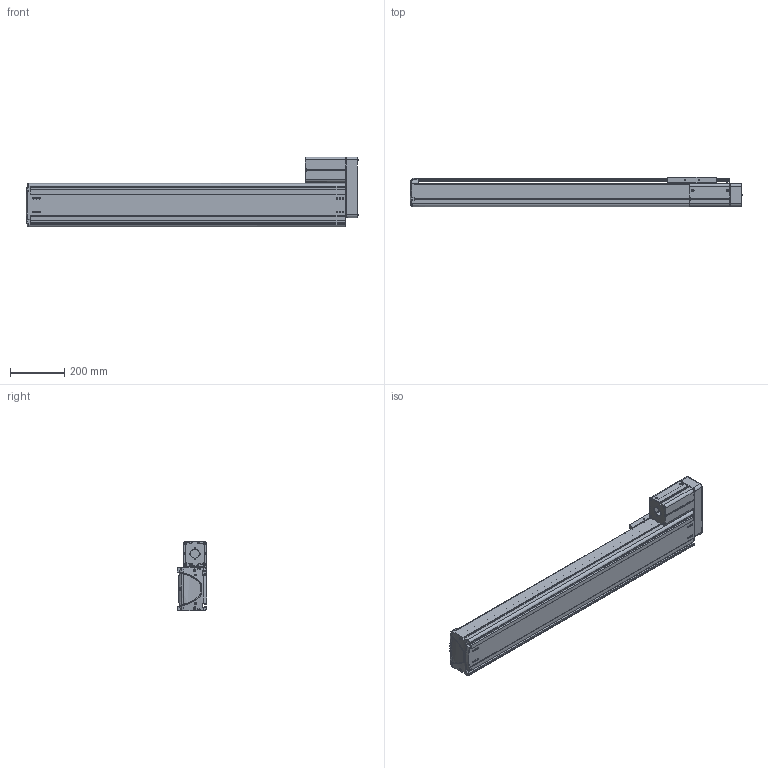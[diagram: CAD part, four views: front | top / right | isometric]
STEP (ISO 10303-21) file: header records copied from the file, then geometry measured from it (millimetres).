
FILE_DESCRIPTION((''),'2;1');
FILE_NAME('BE50F-UR-M_N-90_IGS_PRT','2017-06-18T',(' '),(''),'PRO/ENGINEER BY PARAMETRIC TECHNOLOGY CORPORATION, 2015030','PRO/ENGINEER BY PARAMETRIC TECHNOLOGY CORPORATION, 2015030','');
FILE_SCHEMA(('CONFIG_CONTROL_DESIGN'));
Length unit declared in the file: millimetre
Products named in the file (1): BE50F-UR-M_N-90_IGS_PRT
Bounding box: 1225.88 x 110 x 257 mm (x, y, z)
Volume: 5068947.3 mm3; surface area: 2093396.5 mm2
Topology: 6 solids, 134 shells, 2219 faces, 6056 edges, 3960 vertices
Faces by surface type: plane 1002, cylinder 951, cone 127, torus 59, bspline 48, sphere 32
Entity records: 73559 total; most frequent: CARTESIAN_POINT 16774, DIRECTION 11883, ORIENTED_EDGE 11540, EDGE_CURVE 6010, AXIS2_PLACEMENT_3D 4239, VERTEX_POINT 3954, VECTOR 3405, LINE 3405
